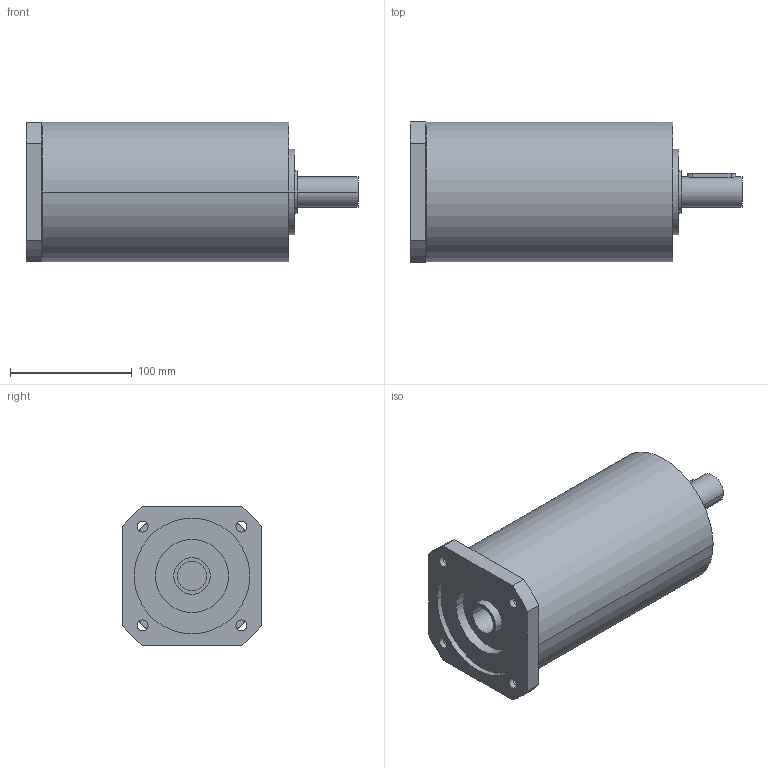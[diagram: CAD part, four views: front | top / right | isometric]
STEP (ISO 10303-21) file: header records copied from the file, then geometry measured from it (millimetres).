
FILE_DESCRIPTION(('CoCreate Modeling STEP Export'),'2;1');
FILE_NAME('GPR125_ig-48-64-80-100-140-196-245-343_25_B14_24_P06.stp','2014-08-26T14:22:27',(''),(''),'CoCreate Modeling STEP processor for AP214 (Solid Model)','CoCreate Modeling 16.00C 25-Feb-2009 (C) Parametric Technology GmbH','');
FILE_SCHEMA(('AUTOMOTIVE_DESIGN { 1 0 10303 214 1 1 1 1 }'));
Length unit declared in the file: millimetre
Products named in the file (2): GPR125_ig-48-64-80-100-140-196-245-343_25_B14_24_P06
Assembly tree (1 placements, depth 2):
  GPR125_ig-48-64-80-100-140-196-245-343_25_B14_24_P06
    GPR125_ig-48-64-80-100-140-196-245-343_25_B14_24_P06
Bounding box: 273 x 115 x 115 mm (x, y, z)
Volume: 2231422.7 mm3; surface area: 122590.9 mm2
Topology: 1 solids, 1 shells, 81 faces, 223 edges, 155 vertices
Faces by surface type: cylinder 48, plane 29, cone 4
Entity records: 2226 total; most frequent: ORIENTED_EDGE 442, CARTESIAN_POINT 408, DIRECTION 300, EDGE_CURVE 221, VERTEX_POINT 155, AXIS2_PLACEMENT_3D 115, EDGE_LOOP 102, FACE_OUTER_BOUND 81
